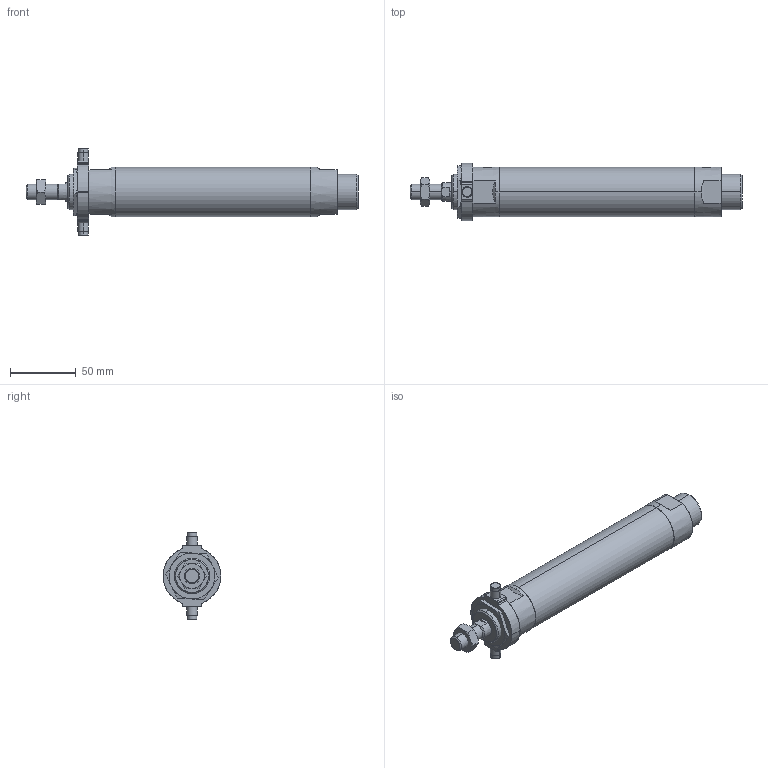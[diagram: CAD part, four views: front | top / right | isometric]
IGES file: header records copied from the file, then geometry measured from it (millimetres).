
Start section: SolidWorks IGES file using analytic representation for surfaces
Global section: file name: C:\Users\Toshiba\Desktop\J#2-32-100-T.IGS; native system: SolidWorks 2014; preprocessor: SolidWorks 2014; author: Toshiba; date: 160308.153737; units: millimetre
Bounding box: 253 x 44 x 66 mm (x, y, z)
Surface area: 37003.2 mm2 (no closed solid volume)
Topology: 0 solids, 0 shells, 133 faces, 2156 edges, 2152 vertices
Faces by surface type: bspline 67, revolution 66
